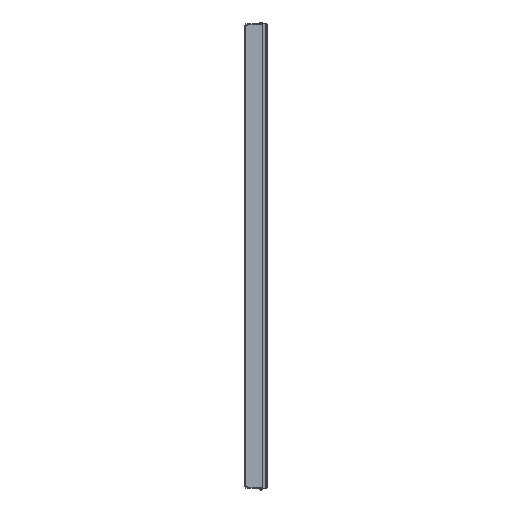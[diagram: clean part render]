
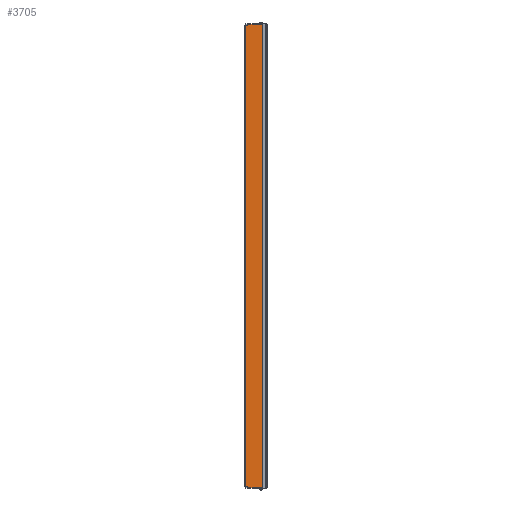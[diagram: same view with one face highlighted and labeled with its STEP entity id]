
A CAD part, left-side view. The second image highlights one B-rep face of the part: STEP entity #3705.
In plain terms, the highlighted planar face has unit normal (-1, 0, 0).
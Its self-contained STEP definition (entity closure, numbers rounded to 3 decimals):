
#189=DIRECTION('',(0.,1.,0.));
#190=VECTOR('',#189,3.3);
#191=CARTESIAN_POINT('',(-19.,13.2,274.5));
#192=LINE('',#191,#190);
#389=DIRECTION('',(0.,0.,-1.));
#390=VECTOR('',#389,1.);
#391=CARTESIAN_POINT('',(-19.,13.2,-274.5));
#392=LINE('',#391,#390);
#401=DIRECTION('',(0.,1.,0.));
#402=VECTOR('',#401,3.3);
#403=CARTESIAN_POINT('',(-19.,13.2,-274.5));
#404=LINE('',#403,#402);
#405=DIRECTION('',(0.,0.,1.));
#406=VECTOR('',#405,1.);
#407=CARTESIAN_POINT('',(-19.,13.2,274.5));
#408=LINE('',#407,#406);
#413=DIRECTION('',(0.,0.,1.));
#414=VECTOR('',#413,551.);
#415=CARTESIAN_POINT('',(-19.,-4.3,-275.5));
#416=LINE('',#415,#414);
#961=DIRECTION('',(0.,-1.,0.));
#962=VECTOR('',#961,17.5);
#963=CARTESIAN_POINT('',(-19.,13.2,-275.5));
#964=LINE('',#963,#962);
#2117=DIRECTION('',(0.,1.,0.));
#2118=VECTOR('',#2117,17.5);
#2119=CARTESIAN_POINT('',(-19.,-4.3,275.5));
#2120=LINE('',#2119,#2118);
#2321=DIRECTION('',(0.,0.,-1.));
#2322=VECTOR('',#2321,549.);
#2323=CARTESIAN_POINT('',(-19.,16.5,274.5));
#2324=LINE('',#2323,#2322);
#2357=CARTESIAN_POINT('',(-19.,16.5,-274.5));
#2358=VERTEX_POINT('',#2357);
#2367=CARTESIAN_POINT('',(-19.,16.5,274.5));
#2368=VERTEX_POINT('',#2367);
#2429=CARTESIAN_POINT('',(-19.,13.2,275.5));
#2430=VERTEX_POINT('',#2429);
#2635=CARTESIAN_POINT('',(-19.,-4.3,275.5));
#2637=VERTEX_POINT('',#2635);
#2717=CARTESIAN_POINT('',(-19.,13.2,274.5));
#2719=VERTEX_POINT('',#2717);
#2775=CARTESIAN_POINT('',(-19.,13.2,-275.5));
#2777=VERTEX_POINT('',#2775);
#2781=CARTESIAN_POINT('',(-19.,-4.3,-275.5));
#2782=VERTEX_POINT('',#2781);
#3011=CARTESIAN_POINT('',(-19.,13.2,-274.5));
#3012=VERTEX_POINT('',#3011);
#3686=CARTESIAN_POINT('',(-19.,16.5,-274.5));
#3687=DIRECTION('',(-1.,0.,0.));
#3688=DIRECTION('',(0.,-1.,0.));
#3689=AXIS2_PLACEMENT_3D('',#3686,#3687,#3688);
#3690=PLANE('',#3689);
#3692=ORIENTED_EDGE('',*,*,#3691,.F.);
#3694=ORIENTED_EDGE('',*,*,#3693,.F.);
#3695=ORIENTED_EDGE('',*,*,#3677,.F.);
#3696=ORIENTED_EDGE('',*,*,#3126,.T.);
#3698=ORIENTED_EDGE('',*,*,#3697,.F.);
#3699=ORIENTED_EDGE('',*,*,#3356,.F.);
#3700=ORIENTED_EDGE('',*,*,#3522,.T.);
#3702=ORIENTED_EDGE('',*,*,#3701,.F.);
#3703=EDGE_LOOP('',(#3692,#3694,#3695,#3696,#3698,#3699,#3700,#3702));
#3704=FACE_OUTER_BOUND('',#3703,.F.);
#3126=EDGE_CURVE('',#3012,#2358,#404,.T.);
#3356=EDGE_CURVE('',#2719,#2368,#192,.T.);
#3522=EDGE_CURVE('',#2719,#2430,#408,.T.);
#3677=EDGE_CURVE('',#3012,#2777,#392,.T.);
#3691=EDGE_CURVE('',#2782,#2637,#416,.T.);
#3693=EDGE_CURVE('',#2777,#2782,#964,.T.);
#3697=EDGE_CURVE('',#2368,#2358,#2324,.T.);
#3701=EDGE_CURVE('',#2637,#2430,#2120,.T.);
#3705=ADVANCED_FACE('',(#3704),#3690,.T.);
